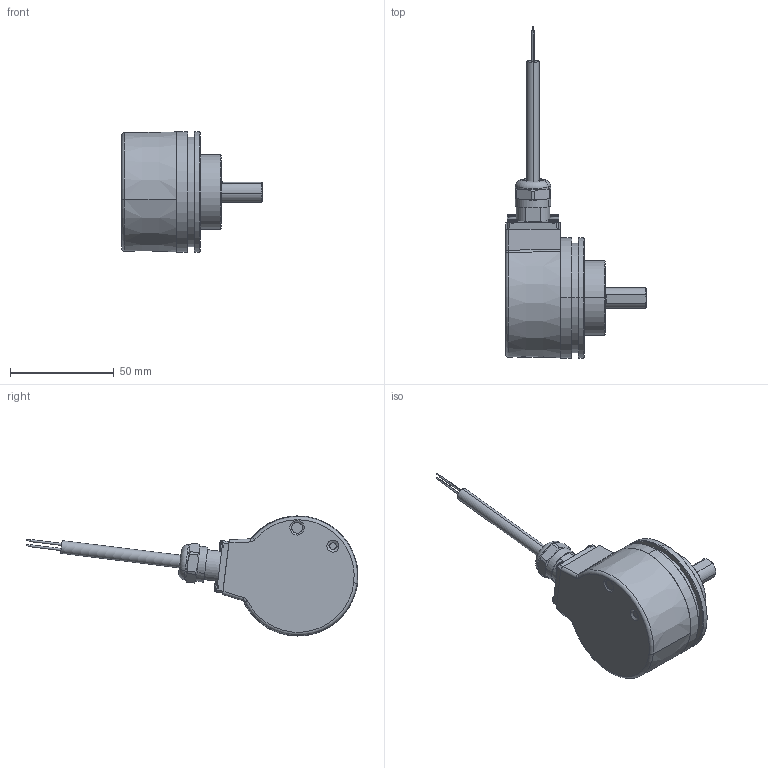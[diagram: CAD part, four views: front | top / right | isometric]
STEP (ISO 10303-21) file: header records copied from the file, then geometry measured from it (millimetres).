
FILE_DESCRIPTION (( 'STEP AP214' ), '1' );
FILE_NAME ('5814SIL.12X2.XXXX.STEP', '2010-07-22T06:28:15', ( 'admin' ), ( 'Fritz Kübler GmbH' ), 'SwSTEP 2.0', 'SolidWorks 2009', '' );
FILE_SCHEMA (( 'AUTOMOTIVE_DESIGN' ));
Length unit declared in the file: millimetre
Products named in the file (1): 5814SIL.12X2.XXXX
Bounding box: 68 x 160.21 x 58 mm (x, y, z)
Surface area: 21688.1 mm2 (no closed solid volume)
Topology: 0 solids, 12 shells, 238 faces, 597 edges, 381 vertices
Faces by surface type: plane 90, cylinder 65, cone 49, torus 22, sphere 8, bspline 4
Entity records: 10332 total; most frequent: CARTESIAN_POINT 1853, DIRECTION 1340, ORIENTED_EDGE 1100, EDGE_CURVE 597, AXIS2_PLACEMENT_3D 550, VERTEX_POINT 381, CIRCLE 315, EDGE_LOOP 273
